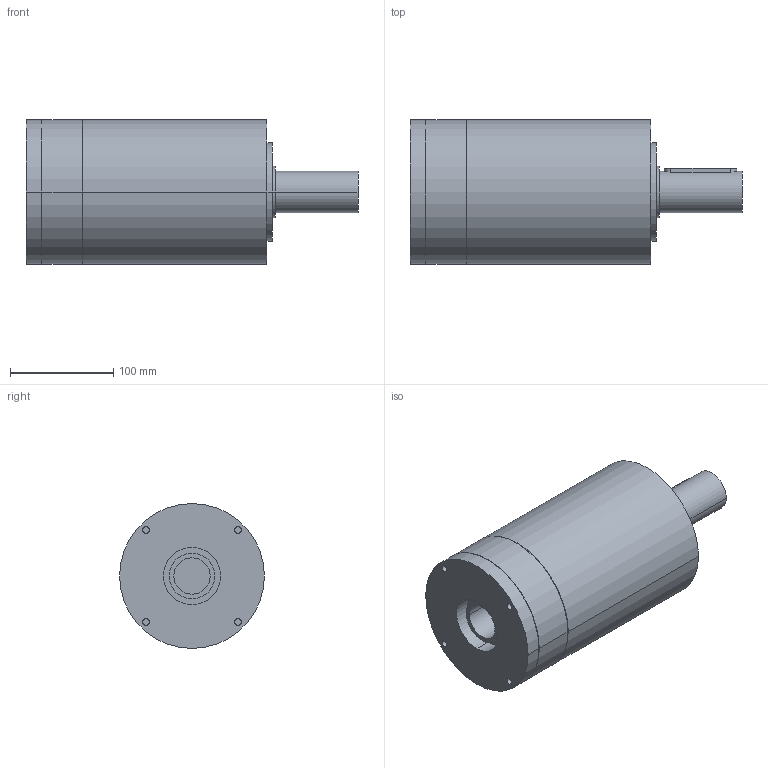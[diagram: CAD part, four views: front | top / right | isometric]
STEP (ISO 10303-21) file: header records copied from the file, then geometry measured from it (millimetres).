
FILE_DESCRIPTION(('CoCreate Modeling STEP Export'),'2;1');
FILE_NAME('GPR150_ig-9-12-16-20-28-35_40_B14_35_P01.stp','2014-08-19T17:04:11',(''),(''),'CoCreate Modeling STEP processor for AP214 (Solid Model)','CoCreate Modeling 16.00C 25-Feb-2009 (C) Parametric Technology GmbH','');
FILE_SCHEMA(('AUTOMOTIVE_DESIGN { 1 0 10303 214 1 1 1 1 }'));
Length unit declared in the file: millimetre
Products named in the file (2): GPR150_ig-9-12-16-20-28-35_40_B14_35_P01
Assembly tree (1 placements, depth 2):
  GPR150_ig-9-12-16-20-28-35_40_B14_35_P01
    GPR150_ig-9-12-16-20-28-35_40_B14_35_P01
Bounding box: 321 x 140 x 140 mm (x, y, z)
Volume: 3615592.6 mm3; surface area: 165391 mm2
Topology: 1 solids, 1 shells, 77 faces, 191 edges, 135 vertices
Faces by surface type: cylinder 46, plane 25, cone 6
Entity records: 1960 total; most frequent: CARTESIAN_POINT 378, ORIENTED_EDGE 378, DIRECTION 252, EDGE_CURVE 189, VERTEX_POINT 135, EDGE_LOOP 98, AXIS2_PLACEMENT_3D 97, FACE_OUTER_BOUND 77
